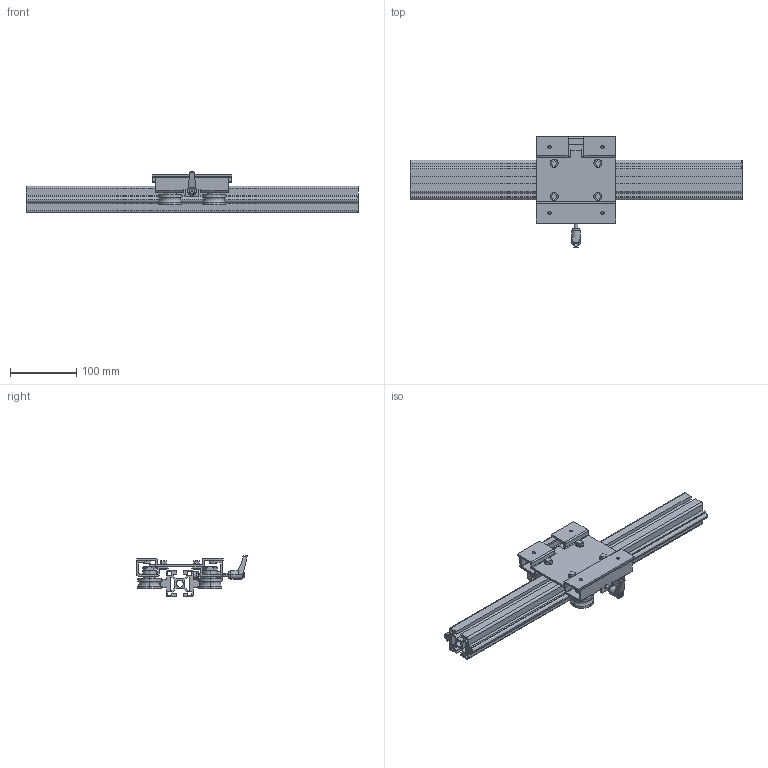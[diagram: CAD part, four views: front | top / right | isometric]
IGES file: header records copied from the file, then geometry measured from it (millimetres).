
Global section: file name: No Iges File Name specified; native system: AutoDesk Inventor R11.0; preprocessor: AutoDesk Inventor Iges Exporter R11.0; author: No Author specified; organization: No Organization specified; date: 20180803.161354; units: millimetre
Bounding box: 500 x 166.5 x 63.1 mm (x, y, z)
Surface area: 336035.7 mm2 (no closed solid volume)
Topology: 0 solids, 0 shells, 536 faces, 3354 edges, 3353 vertices
Faces by surface type: bspline 536
